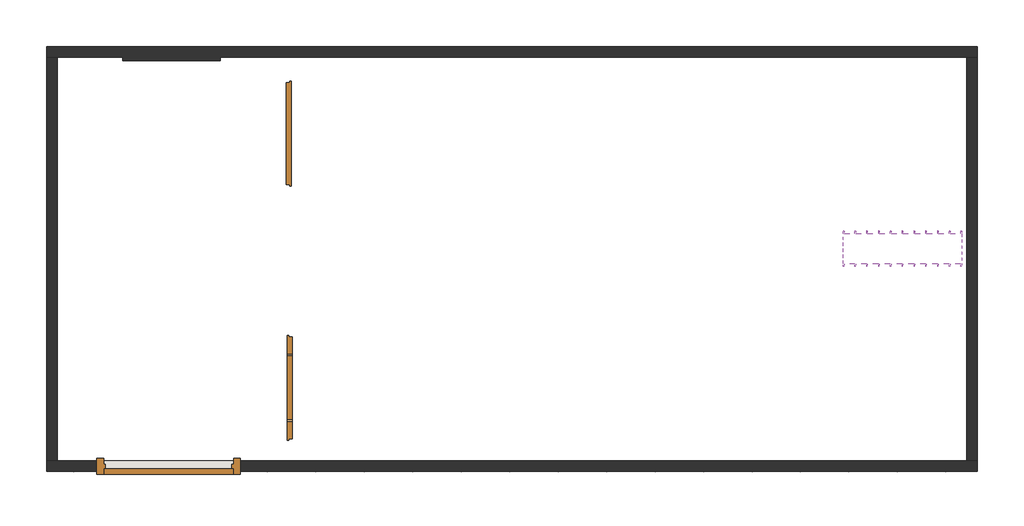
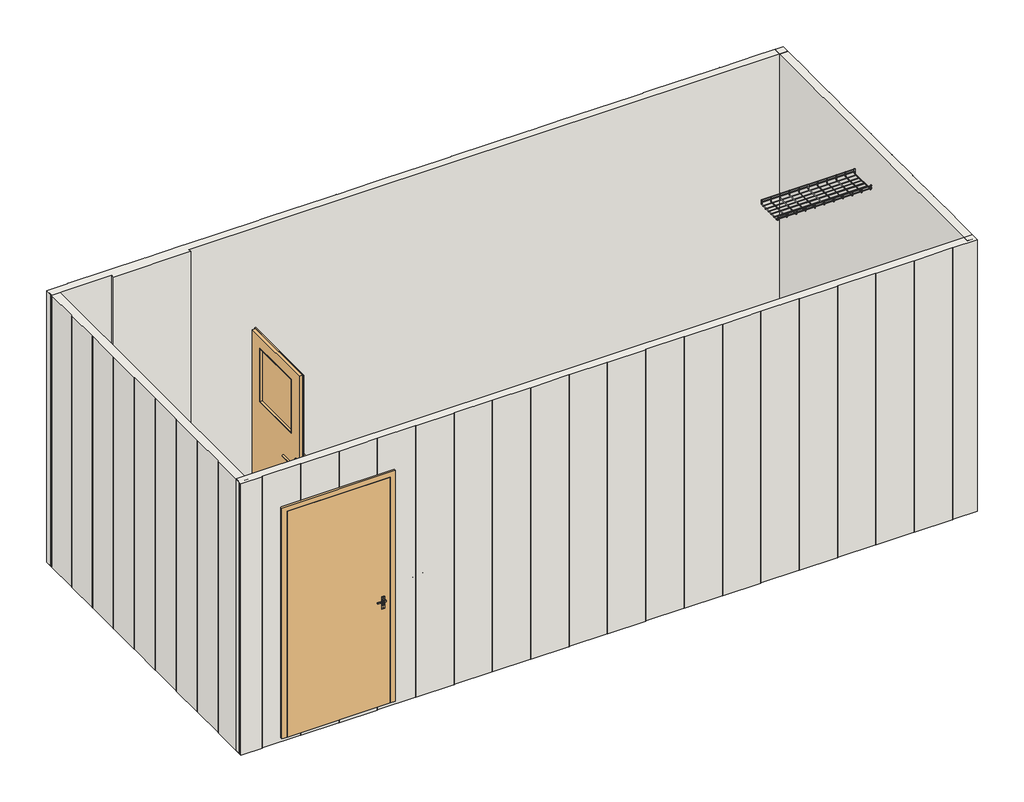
# One storey, incomplete: 5 walls, 4 doors, 1 cable carrier fitting.
"""IFC4 building model written with IfcOpenShell, lengths in millimetres."""

from ifc_helpers import new_model, si_unit, origin, place, context, project, spatial, transform, mapped, element, save
from components import standard_96c1f622, standard_776865e7, door_7bdfcd05, door_5e853514, default_41fbb746, default_b7d49472, walls_1_walls_2_7fcae3fa, walls_2_walls_2_4adeaf41, walls_3_walls_2_fc2f6cde, walls_4_walls_2_dbd03802, walls_7_walls_2_d57c6ef5

model = new_model("IFC4")

# Units and contexts
model_context = context("Model", 3, world=origin())
ifc_project = project(units=[si_unit("LENGTHUNIT", "METRE", prefix="MILLI")], contexts=[model_context])

# Site, building, storey
site = spatial("IfcSite", under=ifc_project)
building = spatial("IfcBuilding", under=site)
storey = spatial("IfcBuildingStorey", under=building, Name="B.O. Footing", Elevation=0.0)

# Cable carrier fitting
placement = place(None, origin())
standard_shape = standard_96c1f622(model_context)
standard_2_shape = standard_776865e7(model_context)
element("IfcCableCarrierFitting", 1, ObjectType="CableTray_Atkore-Straight-Length : Standard", at=placement, inside=storey, context=model_context, shape_type="MappedRepresentation", body=[
    mapped(standard_shape, transform((2302.8911977, -1670.2772175, 2906.5), x_axis=(1.0, 0.0, 0.0), y_axis=(0.0, 1.0, 0.0), z_axis=(0.0, 0.0, 1.0))),
    mapped(standard_2_shape, transform((2302.8911977, -1670.2772175, 2906.5), x_axis=(1.0, 0.0, 0.0), y_axis=(0.0, 1.0, 0.0), z_axis=(0.0, 0.0, 1.0))),
])

# Doors
door_shape = door_7bdfcd05(model_context)
element("IfcDoor", 2, ObjectType="DoorPanel_Steel_Republic_F : DoorPanel_Steel_Republic_F", at=placement, inside=storey, context=model_context, shape_type="MappedRepresentation", body=[
    mapped(door_shape, transform((-3223.6992009, -3495.7842181, 387.5), x_axis=(-1.0, 0.0, 0.0), y_axis=(0.0, -1.0, 0.0), z_axis=(0.0, 0.0, 1.0))),
])
door_2_shape = door_5e853514(model_context)
element("IfcDoor", 3, ObjectType="Door_Steel_Republic_Single-DoubleRabbet-Equal : ByType", at=placement, inside=storey, context=model_context, shape_type="MappedRepresentation", body=[
    mapped(door_2_shape, transform((-1641.6085041, -4315.6502619, 387.5), x_axis=(-1.0, 0.0, 0.0), y_axis=(0.0, -1.0, 0.0), z_axis=(0.0, 0.0, 1.0))),
])
default_shape = default_41fbb746(model_context)
element("IfcDoor", 4, ObjectType="Panel_FIN_40D_Rebated_Glazed_05 without vent : default", at=placement, inside=storey, context=model_context, shape_type="MappedRepresentation", body=[
    mapped(default_shape, transform((-2251.1686214, -2810.7685273, 375.0), x_axis=(0.0, 1.0, 0.0), y_axis=(-1.0, 0.0, 0.0), z_axis=(0.0, 0.0, 1.0))),
])
default_2_shape = default_b7d49472(model_context)
element("IfcDoor", 5, ObjectType="Panel_FIN_40D_Rebated_Glazed_05 : default", at=placement, inside=storey, context=model_context, shape_type="MappedRepresentation", body=[
    mapped(default_2_shape, transform((-2221.795711, -725.7405273, 375.0), x_axis=(0.0, 1.0, 0.0), y_axis=(-1.0, 0.0, 0.0), z_axis=(0.0, 0.0, 1.0))),
])

# Walls
walls_1_walls_2_shape = walls_1_walls_2_7fcae3fa(model_context)
element("IfcWall", 6, ObjectType="Walls 1 : Walls 2", at=placement, inside=storey, context=model_context, shape_type="MappedRepresentation", body=[
    mapped(walls_1_walls_2_shape, transform((0.0, 0.0, 0.0), x_axis=(1.0, 0.0, 0.0), y_axis=(0.0, 1.0, 0.0), z_axis=(0.0, 0.0, 1.0))),
])
walls_2_walls_2_shape = walls_2_walls_2_4adeaf41(model_context)
element("IfcWall", 7, ObjectType="Walls 2 : Walls 2", at=placement, inside=storey, context=model_context, shape_type="MappedRepresentation", body=[
    mapped(walls_2_walls_2_shape, transform((0.0, 0.0, 0.0), x_axis=(1.0, 0.0, 0.0), y_axis=(0.0, 1.0, 0.0), z_axis=(0.0, 0.0, 1.0))),
])
walls_3_walls_2_shape = walls_3_walls_2_fc2f6cde(model_context)
element("IfcWall", 8, ObjectType="Walls 3 : Walls 2", at=placement, inside=storey, context=model_context, shape_type="MappedRepresentation", body=[
    mapped(walls_3_walls_2_shape, transform((0.0, 0.0, 0.0), x_axis=(1.0, 0.0, 0.0), y_axis=(0.0, 1.0, 0.0), z_axis=(0.0, 0.0, 1.0))),
])
walls_4_walls_2_shape = walls_4_walls_2_dbd03802(model_context)
element("IfcWall", 9, ObjectType="Walls 4 : Walls 2", at=placement, inside=storey, context=model_context, shape_type="MappedRepresentation", body=[
    mapped(walls_4_walls_2_shape, transform((0.0, 0.0, 0.0), x_axis=(1.0, 0.0, 0.0), y_axis=(0.0, 1.0, 0.0), z_axis=(0.0, 0.0, 1.0))),
])
walls_7_walls_2_shape = walls_7_walls_2_d57c6ef5(model_context)
element("IfcWall", 10, ObjectType="Walls 7 : Walls 2", at=placement, inside=storey, context=model_context, shape_type="MappedRepresentation", body=[
    mapped(walls_7_walls_2_shape, transform((0.0, 0.0, 0.0), x_axis=(1.0, 0.0, 0.0), y_axis=(0.0, 1.0, 0.0), z_axis=(0.0, 0.0, 1.0))),
])

save(model, "model.ifc")
